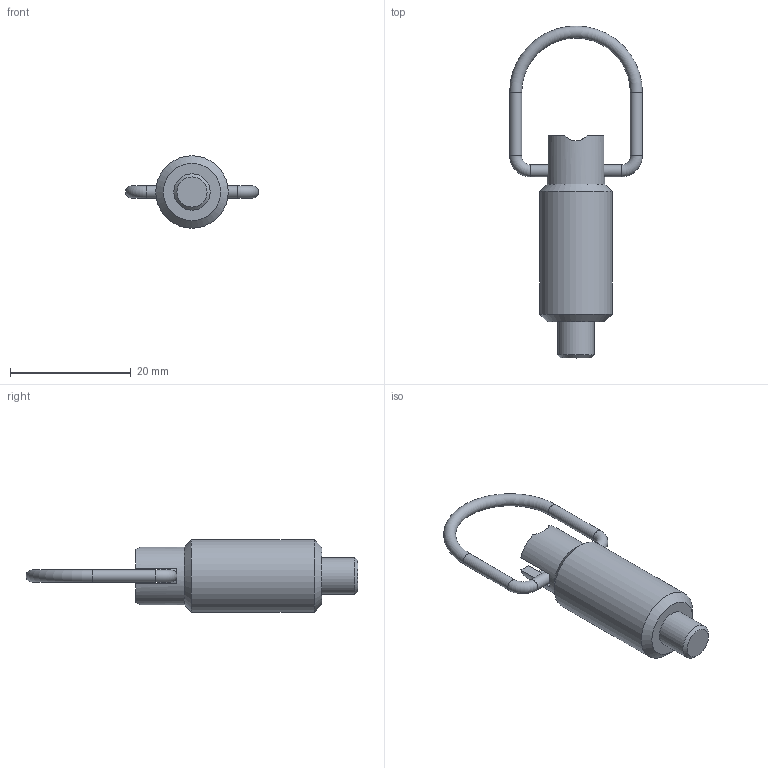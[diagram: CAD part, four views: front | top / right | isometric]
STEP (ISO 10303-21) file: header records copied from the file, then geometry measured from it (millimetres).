
FILE_DESCRIPTION( ( 'STEP AP203' ), '1' );
FILE_NAME( 'C:/Temp/Ganter_Step_05_03_2020/data/3_1/gn_413/gn413_st/gn413_st_c/Steel-Indexing plunger GN 413-6-M12-C-ST (deactivated).stp', '2020-03-12T09:10:38', ( 'License CC BY-ND 4.0' ), ( 'CADENAS' ), ' ', 'PARTsolutions', ' ' );
FILE_SCHEMA( ( 'CONFIG_CONTROL_DESIGN' ) );
Length unit declared in the file: millimetre
Products named in the file (3): Steel-Indexing plunger GN 413-6-M12-C-ST (deactivated); _Steel-Indexing plunger  GN 413-6-M12-C-ST (deactivated)_f; _Steel-Indexing plunger GN 413-6-M12-C-ST (deactivated)_b
Assembly tree (2 placements, depth 2):
  Steel-Indexing plunger GN 413-6-M12-C-ST (deactivated)
    _Steel-Indexing plunger  GN 413-6-M12-C-ST (deactivated)_f
    _Steel-Indexing plunger GN 413-6-M12-C-ST (deactivated)_b
Bounding box: 22 x 55 x 12 mm (x, y, z)
Volume: 3137.6 mm3; surface area: 3024.2 mm2
Topology: 2 solids, 2 shells, 44 faces, 98 edges, 62 vertices
Faces by surface type: plane 18, cylinder 15, cone 8, torus 3
Full cylindrical faces by diameter (mm): 2 x4, 6 x4, 6.3 x1, 8 x2, 9.6 x1, 12 x1
Entity records: 1306 total; most frequent: CARTESIAN_POINT 313, DIRECTION 196, ORIENTED_EDGE 146, AXIS2_PLACEMENT_3D 88, EDGE_CURVE 73, EDGE_LOOP 72, FACE_OUTER_BOUND 60, VERTEX_POINT 57
